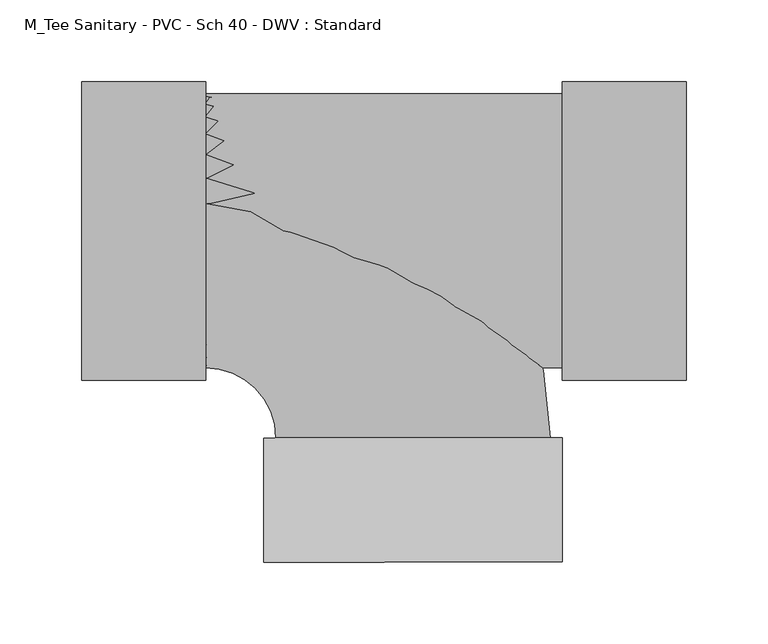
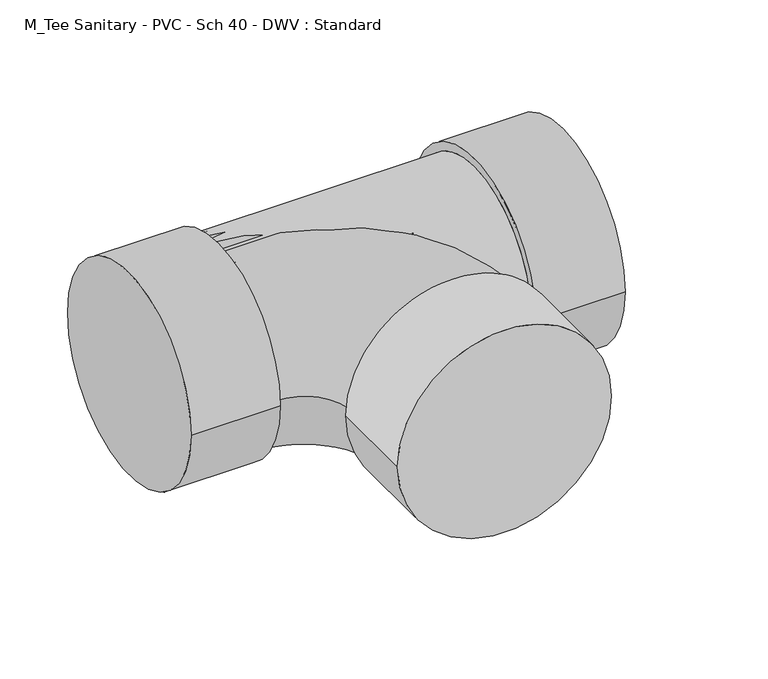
"""IFC4 building model written with IfcOpenShell, lengths in millimetres: pipe fitting geometry, M_Tee Sanitary - PVC - Sch 40 - DWV : Standard."""

from ifc_helpers import new_model, si_unit, point, frame, origin, place, context, project, spatial, circle_curve, ellipse_curve, trimmed, source, transform, mapped, element, save
from ifc_brep_helpers import plane_surface, cylinder_surface, revolved_surface, advanced_brep


def m_tee_sanitary_pvc_sch_40_dwv_standard_c1a820f3(model_context):
    return source(origin(), model_context, "Body", "AdvancedBrep", [
        advanced_brep(
        [(-127.0, -84.1375, 0.0), (-127.0, 84.1375, 0.0), (-83.9475393, -127.1256447, 0.0), (84.3272726, -126.8740714, 0.0), (91.8579843, -203.062898, 0.0), (-91.250411, -203.3366478, 0.0), (91.7440643, -126.8629832, 0.0), (-91.364331, -127.1367329, 0.0)],
        [
            (0, 1, circle_curve(frame((-127.0, 0.0, 0.0), z_axis=(-1.0, 0.0, 0.0), x_axis=(0.0, 1.0, 0.0)), 84.1375)),
            (1, 0, circle_curve(frame((-127.0, 0.0, 0.0), z_axis=(-1.0, 0.0, 0.0), x_axis=(0.0, 1.0, 0.0)), 84.1375)),
            (0, 2, circle_curve(frame((-127.0, -127.1900088, 0.0), z_axis=(0.0, 0.0, -1.0), x_axis=(0.0, 1.0, 0.0)), 43.0525088)),
            (2, 3, circle_curve(frame((0.1898666, -126.9998581, 0.0), z_axis=(-0.001495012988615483, 0.9999988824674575, 0.0), x_axis=(0.9999988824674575, 0.001495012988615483, 0.0)), 84.1375)),
            (3, 1, circle_curve(frame((-127.0, -127.1900088, 0.0), z_axis=(0.0, 0.0, 1.0), x_axis=(0.0, 1.0, 0.0)), 211.3275088)),
            (3, 2, circle_curve(frame((0.1898666, -126.9998581, 0.0), z_axis=(-0.0014950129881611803, 0.9999988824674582, 0.0), x_axis=(0.9999988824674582, 0.0014950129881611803, 0.0)), 84.1375)),
            (4, 5, circle_curve(frame((0.3037866, -203.1997729, 0.0), z_axis=(0.0014950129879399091, -0.9999988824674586, 0.0), x_axis=(-0.9999988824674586, -0.0014950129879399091, 0.0)), 91.5543)),
            (5, 4, circle_curve(frame((0.3037866, -203.1997729, 0.0), z_axis=(0.0014950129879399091, -0.9999988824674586, 0.0), x_axis=(-0.9999988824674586, -0.0014950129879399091, 0.0)), 91.5543)),
            (6, 7, circle_curve(frame((0.1898666, -126.9998581, 0.0), z_axis=(-0.0014950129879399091, 0.9999988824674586, 0.0), x_axis=(-0.9999988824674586, -0.0014950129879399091, 0.0)), 91.5543)),
            (7, 6, circle_curve(frame((0.1898666, -126.9998581, 0.0), z_axis=(-0.0014950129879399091, 0.9999988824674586, 0.0), x_axis=(-0.9999988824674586, -0.0014950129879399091, 0.0)), 91.5543)),
            (4, 6),
            (7, 5),
        ],
        [
            plane_surface(frame((-127.0, 0.0, 0.0), z_axis=(-1.0, 0.0, 0.0), x_axis=(0.0, 0.0, 1.0))),
            revolved_surface(trimmed(ellipse_curve(frame((-127.0, 0.0, 0.0), z_axis=(-1.0, 0.0, 0.0), x_axis=(0.0, 1.0, 0.0)), 84.1375, 84.1375), [point((-127.0, -84.1375, 0.0))], [point((-127.0, 84.1375, 0.0))], True, "CARTESIAN"), (-127.0, -127.1900088, 0.0), (0.0, 0.0, -1.0)),
            revolved_surface(trimmed(ellipse_curve(frame((-127.0, 0.0, 0.0), z_axis=(-1.0, 0.0, 0.0), x_axis=(0.0, 1.0, 0.0)), 84.1375, 84.1375), [point((-127.0, 84.1375, 0.0))], [point((-127.0, -84.1375, 0.0))], True, "CARTESIAN"), (-127.0, -127.1900088, 0.0), (0.0, 0.0, -1.0)),
            plane_surface(frame((0.3037866, -203.1997729, 0.0), z_axis=(0.0014950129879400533, -0.9999988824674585, 0.0), x_axis=(0.0, 0.0, 1.0))),
            plane_surface(frame((0.1898666, -126.9998581, 0.0), z_axis=(-0.0014950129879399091, 0.9999988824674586, 0.0), x_axis=(0.0, 0.0, 1.0))),
            cylinder_surface(frame((0.3037866, -203.1997729, 0.0), z_axis=(0.0014950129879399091, -0.9999988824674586, 0.0), x_axis=(-0.9999988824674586, -0.0014950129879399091, 0.0)), 91.5543),
        ],
        [
            (0, [[1, 2]]),
            (1, [[-1, 3, 4, 5]]),
            (2, [[-2, -5, 6, -3]]),
            (3, [[7, 8]]),
            (4, [[9, 10], [-4, -6]]),
            (5, [[-7, 11, -10, 12]]),
            (5, [[-8, -12, -9, -11]]),
        ],
    ),
        advanced_brep(
        [(-127.0, -84.1375, 0.0), (91.7440643, -84.1375, 0.0), (91.7440643, 84.1375, 0.0), (-127.0, 84.1375, 0.0), (91.7440643, -91.5543, 0.0), (91.7440643, 91.5543, 0.0), (167.9440643, -91.5543, 0.0), (167.9440643, 91.5543, 0.0), (-203.2, -91.5543, 0.0), (-203.2, 91.5543, 0.0), (-127.0, -91.5543, 0.0), (-127.0, 91.5543, 0.0)],
        [
            (0, 1),
            (1, 2, circle_curve(frame((91.7440643, 0.0, 0.0), z_axis=(-1.0, 0.0, 0.0), x_axis=(0.0, 1.0, 0.0)), 84.1375)),
            (2, 3),
            (3, 0, circle_curve(frame((-127.0, 0.0, 0.0), z_axis=(1.0, 0.0, 0.0), x_axis=(0.0, 1.0, 0.0)), 84.1375)),
            (0, 3, circle_curve(frame((-127.0, 0.0, 0.0), z_axis=(1.0, 0.0, 0.0), x_axis=(0.0, 1.0, 0.0)), 84.1375)),
            (2, 1, circle_curve(frame((91.7440643, 0.0, 0.0), z_axis=(-1.0, 0.0, 0.0), x_axis=(0.0, 1.0, 0.0)), 84.1375)),
            (4, 5, circle_curve(frame((91.7440643, 0.0, 0.0), z_axis=(-1.0, 0.0, 0.0), x_axis=(0.0, 1.0, 0.0)), 91.5543)),
            (5, 4, circle_curve(frame((91.7440643, 0.0, 0.0), z_axis=(-1.0, 0.0, 0.0), x_axis=(0.0, 1.0, 0.0)), 91.5543)),
            (6, 7, circle_curve(frame((167.9440643, 0.0, 0.0), z_axis=(1.0, 0.0, 0.0), x_axis=(0.0, 1.0, 0.0)), 91.5543)),
            (7, 6, circle_curve(frame((167.9440643, 0.0, 0.0), z_axis=(1.0, 0.0, 0.0), x_axis=(0.0, 1.0, 0.0)), 91.5543)),
            (4, 6),
            (7, 5),
            (8, 9, circle_curve(frame((-203.2, 0.0, 0.0), z_axis=(-1.0, 0.0, 0.0), x_axis=(0.0, 1.0, 0.0)), 91.5543)),
            (9, 8, circle_curve(frame((-203.2, 0.0, 0.0), z_axis=(-1.0, 0.0, 0.0), x_axis=(0.0, 1.0, 0.0)), 91.5543)),
            (10, 11, circle_curve(frame((-127.0, 0.0, 0.0), z_axis=(1.0, 0.0, 0.0), x_axis=(0.0, 1.0, 0.0)), 91.5543)),
            (11, 10, circle_curve(frame((-127.0, 0.0, 0.0), z_axis=(1.0, 0.0, 0.0), x_axis=(0.0, 1.0, 0.0)), 91.5543)),
            (8, 10),
            (11, 9),
        ],
        [
            cylinder_surface(frame((-127.0, 0.0, 0.0), z_axis=(-1.0, 0.0, 0.0), x_axis=(0.0, 1.0, 0.0)), 84.1375),
            plane_surface(frame((91.7440643, 0.0, 0.0), z_axis=(-1.0, 0.0, 0.0), x_axis=(0.0, 0.0, 1.0))),
            plane_surface(frame((167.9440643, 0.0, 0.0), z_axis=(1.0, 0.0, 0.0), x_axis=(0.0, 0.0, 1.0))),
            cylinder_surface(frame((91.7440643, 0.0, 0.0), z_axis=(-1.0, 0.0, 0.0), x_axis=(0.0, 1.0, 0.0)), 91.5543),
            plane_surface(frame((-203.2, 0.0, 0.0), z_axis=(-1.0, 0.0, 0.0), x_axis=(0.0, 0.0, 1.0))),
            plane_surface(frame((-127.0, 0.0, 0.0), z_axis=(1.0, 0.0, 0.0), x_axis=(0.0, 0.0, 1.0))),
            cylinder_surface(frame((-203.2, 0.0, 0.0), z_axis=(-1.0, 0.0, 0.0), x_axis=(0.0, 1.0, 0.0)), 91.5543),
        ],
        [
            (0, [[1, 2, 3, 4]]),
            (0, [[-1, 5, -3, 6]]),
            (1, [[7, 8], [-2, -6]]),
            (2, [[9, 10]]),
            (3, [[-7, 11, -10, 12]]),
            (3, [[-8, -12, -9, -11]]),
            (4, [[13, 14]]),
            (5, [[15, 16], [-4, -5]]),
            (6, [[-13, 17, -16, 18]]),
            (6, [[-14, -18, -15, -17]]),
        ],
    ),
    ])


if __name__ == "__main__":
    model = new_model("IFC4")
    model_context = context("Model", 3, world=origin())
    ifc_project = project(units=[si_unit("LENGTHUNIT", "METRE", prefix="MILLI")], contexts=[model_context])
    site = spatial("IfcSite", under=ifc_project)
    building = spatial("IfcBuilding", under=site)
    placement = place(None, origin())
    m_tee_sanitary_pvc_sch_40_dwv_standard_shape = m_tee_sanitary_pvc_sch_40_dwv_standard_c1a820f3(model_context)
    element("IfcPipeFitting", 1, ObjectType="M_Tee Sanitary - PVC - Sch 40 - DWV : Standard", at=placement, inside=building, context=model_context, shape_type="MappedRepresentation", body=[
        mapped(m_tee_sanitary_pvc_sch_40_dwv_standard_shape, transform((0.0, 0.0, 0.0), x_axis=(1.0, 0.0, 0.0), y_axis=(0.0, 1.0, 0.0), z_axis=(0.0, 0.0, 1.0))),
    ])
    save(model, "model.ifc")
